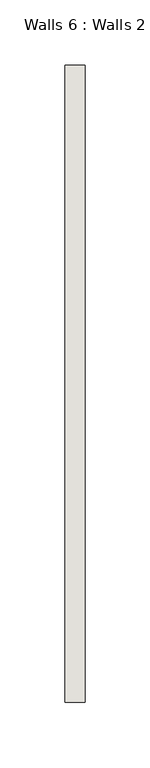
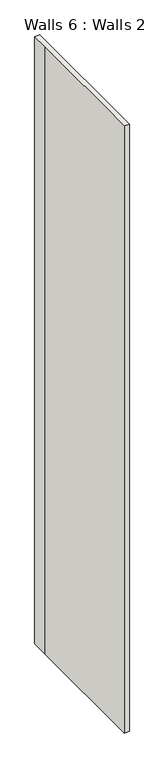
"""IFC4 building model written with IfcOpenShell, lengths in millimetres: wall geometry, Walls 6 : Walls 2."""

from ifc_helpers import new_model, si_unit, frame, origin, place, context, project, spatial, polyline, outline, extrude, source, transform, mapped, element, save


def walls_6_walls_2_bc99a6c9(model_context):
    return source(origin(), model_context, "Body", "SweptSolid", [
        extrude(outline(polyline([(8305.6019975, 2012.4615693), (8290.3636512, 2012.4615693), (8290.3636512, 2446.4072164), (8290.3636512, 2500.7997972), (8305.6019975, 2500.7997972), (8305.6019975, 2012.4615693)])), frame((0.0, 0.0, 429.8090256), z_axis=(0.0, 0.0, 1.0), x_axis=(1.0, 0.0, 0.0)), (0.0, 0.0, 1.0), 2016.0),
    ])


if __name__ == "__main__":
    model = new_model("IFC4")
    model_context = context("Model", 3, world=origin())
    ifc_project = project(units=[si_unit("LENGTHUNIT", "METRE", prefix="MILLI")], contexts=[model_context])
    site = spatial("IfcSite", under=ifc_project)
    building = spatial("IfcBuilding", under=site)
    placement = place(None, origin())
    walls_6_walls_2_shape = walls_6_walls_2_bc99a6c9(model_context)
    element("IfcWall", 1, ObjectType="Walls 6 : Walls 2", at=placement, inside=building, context=model_context, shape_type="MappedRepresentation", body=[
        mapped(walls_6_walls_2_shape, transform((0.0, 0.0, 0.0), x_axis=(1.0, 0.0, 0.0), y_axis=(0.0, 1.0, 0.0), z_axis=(0.0, 0.0, 1.0))),
    ])
    save(model, "model.ifc")
